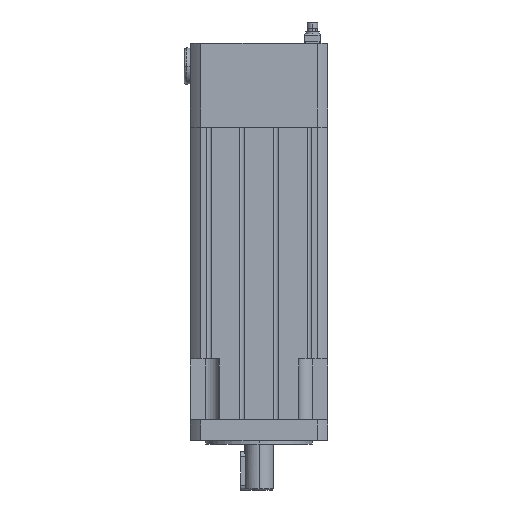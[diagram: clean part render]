
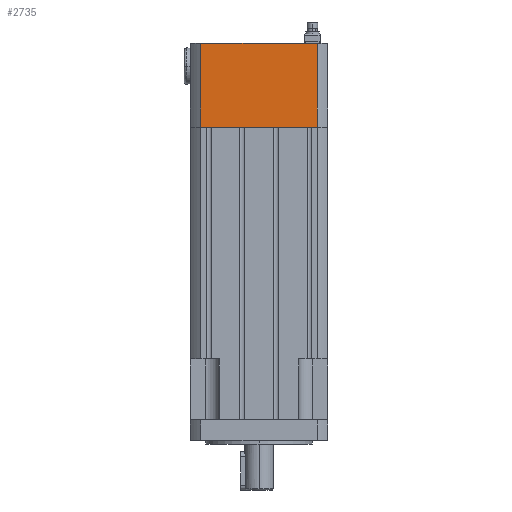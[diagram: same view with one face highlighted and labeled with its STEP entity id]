
A CAD part, left-side view. The second image highlights one B-rep face of the part: STEP entity #2735.
In plain terms, the highlighted planar face has unit normal (-1, 0, 0).
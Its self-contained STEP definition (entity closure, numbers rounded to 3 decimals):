
#293 = LINE ( 'NONE', #2423, #11561 ) ;
#776 = EDGE_CURVE ( 'NONE', #5120, #3346, #13538, .T. ) ;
#1003 = VECTOR ( 'NONE', #11549, 1000. ) ;
#1808 = DIRECTION ( 'NONE',  ( 0., 0., -1. ) ) ;
#2423 = CARTESIAN_POINT ( 'NONE',  ( -45., -38.158, 247. ) ) ;
#2487 = DIRECTION ( 'NONE',  ( 0., -1., 0. ) ) ;
#2735 = ADVANCED_FACE ( 'NONE', ( #8912 ), #5751, .F. ) ;
#3035 = VERTEX_POINT ( 'NONE', #8749 ) ;
#3346 = VERTEX_POINT ( 'NONE', #8319 ) ;
#3462 = CARTESIAN_POINT ( 'NONE',  ( -45., -38.158, 192. ) ) ;
#3958 = EDGE_LOOP ( 'NONE', ( #5398, #4950, #10214, #12401 ) ) ;
#4101 = CARTESIAN_POINT ( 'NONE',  ( -45., 38.158, 247. ) ) ;
#4709 = EDGE_CURVE ( 'NONE', #13211, #3035, #13255, .T. ) ;
#4950 = ORIENTED_EDGE ( 'NONE', *, *, #4709, .F. ) ;
#5120 = VERTEX_POINT ( 'NONE', #13182 ) ;
#5398 = ORIENTED_EDGE ( 'NONE', *, *, #7457, .T. ) ;
#5751 = PLANE ( 'NONE',  #12639 ) ;
#5840 = DIRECTION ( 'NONE',  ( 0., 0., -1. ) ) ;
#5956 = DIRECTION ( 'NONE',  ( 1., 0., 0. ) ) ;
#5988 = VECTOR ( 'NONE', #5840, 1000. ) ;
#6644 = DIRECTION ( 'NONE',  ( 0., -1., 0. ) ) ;
#6809 = CARTESIAN_POINT ( 'NONE',  ( -45., -38.158, 247. ) ) ;
#7457 = EDGE_CURVE ( 'NONE', #3346, #3035, #12901, .T. ) ;
#7585 = CARTESIAN_POINT ( 'NONE',  ( -45., -38.158, 247. ) ) ;
#8319 = CARTESIAN_POINT ( 'NONE',  ( -45., 38.158, 192. ) ) ;
#8749 = CARTESIAN_POINT ( 'NONE',  ( -45., -38.158, 192. ) ) ;
#8912 = FACE_OUTER_BOUND ( 'NONE', #3958, .T. ) ;
#9773 = VECTOR ( 'NONE', #2487, 1000. ) ;
#9883 = EDGE_CURVE ( 'NONE', #5120, #13211, #293, .T. ) ;
#10214 = ORIENTED_EDGE ( 'NONE', *, *, #9883, .F. ) ;
#11257 = CARTESIAN_POINT ( 'NONE',  ( -45., -38.158, 247. ) ) ;
#11549 = DIRECTION ( 'NONE',  ( 0., 0., -1. ) ) ;
#11561 = VECTOR ( 'NONE', #6644, 1000. ) ;
#12401 = ORIENTED_EDGE ( 'NONE', *, *, #776, .T. ) ;
#12639 = AXIS2_PLACEMENT_3D ( 'NONE', #11257, #5956, #1808 ) ;
#12901 = LINE ( 'NONE', #3462, #9773 ) ;
#13182 = CARTESIAN_POINT ( 'NONE',  ( -45., 38.158, 247. ) ) ;
#13211 = VERTEX_POINT ( 'NONE', #7585 ) ;
#13255 = LINE ( 'NONE', #6809, #5988 ) ;
#13538 = LINE ( 'NONE', #4101, #1003 ) ;
